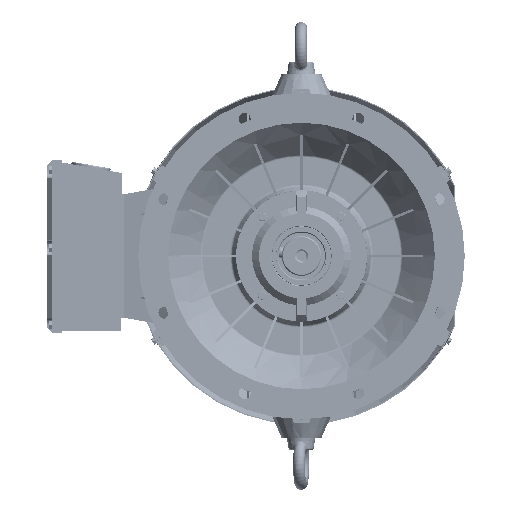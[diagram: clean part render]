
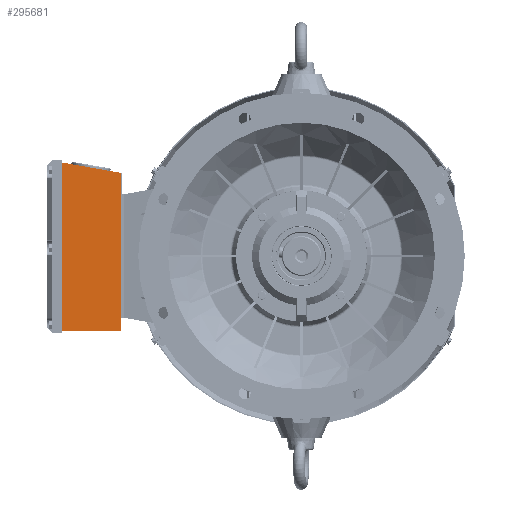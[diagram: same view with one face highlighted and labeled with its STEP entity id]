
A CAD part, left-side view. The second image highlights one B-rep face of the part: STEP entity #295681.
In plain terms, the highlighted planar face has unit normal (-1, 0, 0).
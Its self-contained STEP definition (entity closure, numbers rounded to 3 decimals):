
#158 = DIRECTION ( 'NONE',  ( 0., 0.985, 0.174 ) ) ;
#7049 = CARTESIAN_POINT ( 'NONE',  ( -139.172, 450.262, -125. ) ) ;
#7634 = DIRECTION ( 'NONE',  ( 0., 0., 1. ) ) ;
#18973 = EDGE_CURVE ( 'NONE', #103767, #24146, #137735, .T. ) ;
#24146 = VERTEX_POINT ( 'NONE', #62993 ) ;
#34975 = VECTOR ( 'NONE', #158, 1000. ) ;
#38484 = AXIS2_PLACEMENT_3D ( 'NONE', #7049, #128042, #266415 ) ;
#62993 = CARTESIAN_POINT ( 'NONE',  ( -139.172, 450.262, -151. ) ) ;
#66823 = DIRECTION ( 'NONE',  ( 0., -1., 0. ) ) ;
#67398 = EDGE_LOOP ( 'NONE', ( #92720, #107358, #153340, #167580 ) ) ;
#92720 = ORIENTED_EDGE ( 'NONE', *, *, #177302, .T. ) ;
#96746 = FACE_OUTER_BOUND ( 'NONE', #67398, .T. ) ;
#101967 = LINE ( 'NONE', #221397, #162838 ) ;
#103767 = VERTEX_POINT ( 'NONE', #183543 ) ;
#107358 = ORIENTED_EDGE ( 'NONE', *, *, #269117, .T. ) ;
#128042 = DIRECTION ( 'NONE',  ( -1., 0., 0. ) ) ;
#137735 = LINE ( 'NONE', #261806, #240893 ) ;
#144720 = LINE ( 'NONE', #222774, #34975 ) ;
#153340 = ORIENTED_EDGE ( 'NONE', *, *, #18973, .T. ) ;
#159742 = DIRECTION ( 'NONE',  ( 0., 0., -1. ) ) ;
#162838 = VECTOR ( 'NONE', #7634, 1000. ) ;
#167580 = ORIENTED_EDGE ( 'NONE', *, *, #305535, .T. ) ;
#177123 = CARTESIAN_POINT ( 'NONE',  ( -139.172, 331.262, 168.029 ) ) ;
#177302 = EDGE_CURVE ( 'NONE', #272374, #268363, #101967, .T. ) ;
#183543 = CARTESIAN_POINT ( 'NONE',  ( -139.172, 450.262, 189.012 ) ) ;
#203402 = VECTOR ( 'NONE', #66823, 1000. ) ;
#211991 = CARTESIAN_POINT ( 'NONE',  ( -139.172, 331.262, -151. ) ) ;
#221397 = CARTESIAN_POINT ( 'NONE',  ( -139.172, 331.262, -151. ) ) ;
#222774 = CARTESIAN_POINT ( 'NONE',  ( -139.172, 328.262, 167.5 ) ) ;
#240893 = VECTOR ( 'NONE', #159742, 1000. ) ;
#261806 = CARTESIAN_POINT ( 'NONE',  ( -139.172, 450.262, -151. ) ) ;
#266415 = DIRECTION ( 'NONE',  ( 0., 0., 1. ) ) ;
#268363 = VERTEX_POINT ( 'NONE', #177123 ) ;
#269117 = EDGE_CURVE ( 'NONE', #268363, #103767, #144720, .T. ) ;
#272374 = VERTEX_POINT ( 'NONE', #211991 ) ;
#282116 = LINE ( 'NONE', #305689, #203402 ) ;
#293093 = PLANE ( 'NONE',  #38484 ) ;
#295681 = ADVANCED_FACE ( 'NONE', ( #96746 ), #293093, .T. ) ;
#305535 = EDGE_CURVE ( 'NONE', #24146, #272374, #282116, .T. ) ;
#305689 = CARTESIAN_POINT ( 'NONE',  ( -139.172, 331.262, -151. ) ) ;
